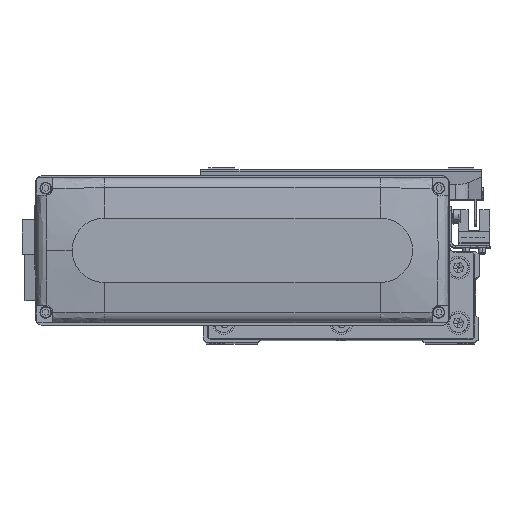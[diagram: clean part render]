
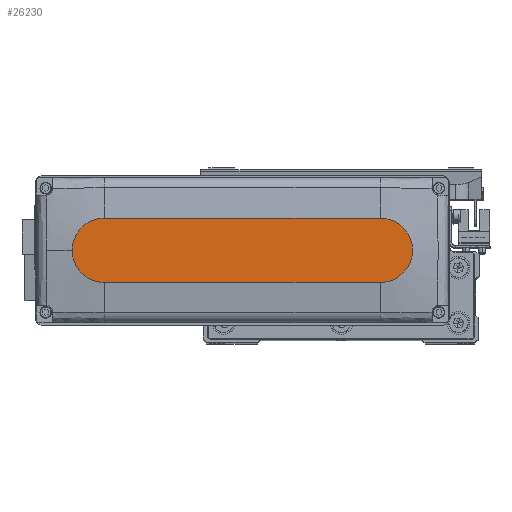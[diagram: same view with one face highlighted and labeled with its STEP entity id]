
A CAD part, top view. The second image highlights one B-rep face of the part: STEP entity #26230.
In plain terms, the highlighted planar face has unit normal (0, 0, 1).
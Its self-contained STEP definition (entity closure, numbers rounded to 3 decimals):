
#580 = VECTOR ( 'NONE', #5676, 1000. ) ;
#1363 = DIRECTION ( 'NONE',  ( 0., 0., 1. ) ) ;
#1634 = AXIS2_PLACEMENT_3D ( 'NONE', #31996, #2172, #15473 ) ;
#1784 = VERTEX_POINT ( 'NONE', #36193 ) ;
#2172 = DIRECTION ( 'NONE',  ( 0., 0., 1. ) ) ;
#3366 = EDGE_LOOP ( 'NONE', ( #7935, #41606, #17094, #11241, #14786 ) ) ;
#4055 = CARTESIAN_POINT ( 'NONE',  ( 60., 0., 28.5 ) ) ;
#4622 = FACE_OUTER_BOUND ( 'NONE', #3366, .T. ) ;
#5676 = DIRECTION ( 'NONE',  ( -1., 0., 0. ) ) ;
#5971 = AXIS2_PLACEMENT_3D ( 'NONE', #31177, #1363, #14670 ) ;
#6301 = CARTESIAN_POINT ( 'NONE',  ( 74., 0., 28.5 ) ) ;
#6945 = DIRECTION ( 'NONE',  ( 1., 0., 0. ) ) ;
#7935 = ORIENTED_EDGE ( 'NONE', *, *, #35284, .T. ) ;
#9641 = CIRCLE ( 'NONE', #33980, 14. ) ;
#10005 = DIRECTION ( 'NONE',  ( 0., 0., 1. ) ) ;
#11027 = VECTOR ( 'NONE', #6945, 1000. ) ;
#11241 = ORIENTED_EDGE ( 'NONE', *, *, #42910, .T. ) ;
#14670 = DIRECTION ( 'NONE',  ( 1., 0., 0. ) ) ;
#14786 = ORIENTED_EDGE ( 'NONE', *, *, #16371, .T. ) ;
#15473 = DIRECTION ( 'NONE',  ( 1., 0., 0. ) ) ;
#16371 = EDGE_CURVE ( 'NONE', #34489, #26720, #9641, .T. ) ;
#17094 = ORIENTED_EDGE ( 'NONE', *, *, #35443, .T. ) ;
#17345 = DIRECTION ( 'NONE',  ( 0., 0., 1. ) ) ;
#17915 = PLANE ( 'NONE',  #5971 ) ;
#18772 = CARTESIAN_POINT ( 'NONE',  ( 60., -14., 28.5 ) ) ;
#20382 = CIRCLE ( 'NONE', #1634, 14. ) ;
#21303 = AXIS2_PLACEMENT_3D ( 'NONE', #39804, #10005, #23258 ) ;
#22208 = LINE ( 'NONE', #35504, #580 ) ;
#23258 = DIRECTION ( 'NONE',  ( 1., 0., 0. ) ) ;
#23471 = LINE ( 'NONE', #36763, #11027 ) ;
#24197 = VERTEX_POINT ( 'NONE', #25163 ) ;
#25163 = CARTESIAN_POINT ( 'NONE',  ( -60., 14., 28.5 ) ) ;
#26230 = ADVANCED_FACE ( 'NONE', ( #4622 ), #17915, .T. ) ;
#26331 = VERTEX_POINT ( 'NONE', #18772 ) ;
#26720 = VERTEX_POINT ( 'NONE', #38099 ) ;
#26984 = EDGE_CURVE ( 'NONE', #24197, #1784, #40057, .T. ) ;
#30611 = DIRECTION ( 'NONE',  ( 1., 0., 0. ) ) ;
#31177 = CARTESIAN_POINT ( 'NONE',  ( 0., 0., 28.5 ) ) ;
#31996 = CARTESIAN_POINT ( 'NONE',  ( 60., 0., 28.5 ) ) ;
#33980 = AXIS2_PLACEMENT_3D ( 'NONE', #4055, #17345, #30611 ) ;
#34489 = VERTEX_POINT ( 'NONE', #6301 ) ;
#35284 = EDGE_CURVE ( 'NONE', #26720, #24197, #22208, .T. ) ;
#35443 = EDGE_CURVE ( 'NONE', #1784, #26331, #23471, .T. ) ;
#35504 = CARTESIAN_POINT ( 'NONE',  ( -60., 14., 28.5 ) ) ;
#36193 = CARTESIAN_POINT ( 'NONE',  ( -60., -14., 28.5 ) ) ;
#36763 = CARTESIAN_POINT ( 'NONE',  ( -60., -14., 28.5 ) ) ;
#38099 = CARTESIAN_POINT ( 'NONE',  ( 60., 14., 28.5 ) ) ;
#39804 = CARTESIAN_POINT ( 'NONE',  ( -60., 0., 28.5 ) ) ;
#40057 = CIRCLE ( 'NONE', #21303, 14. ) ;
#41606 = ORIENTED_EDGE ( 'NONE', *, *, #26984, .T. ) ;
#42910 = EDGE_CURVE ( 'NONE', #26331, #34489, #20382, .T. ) ;
